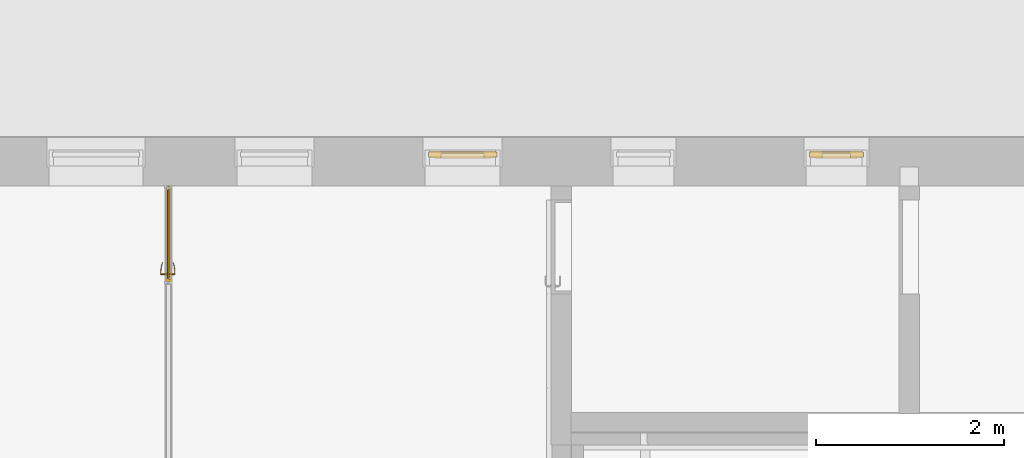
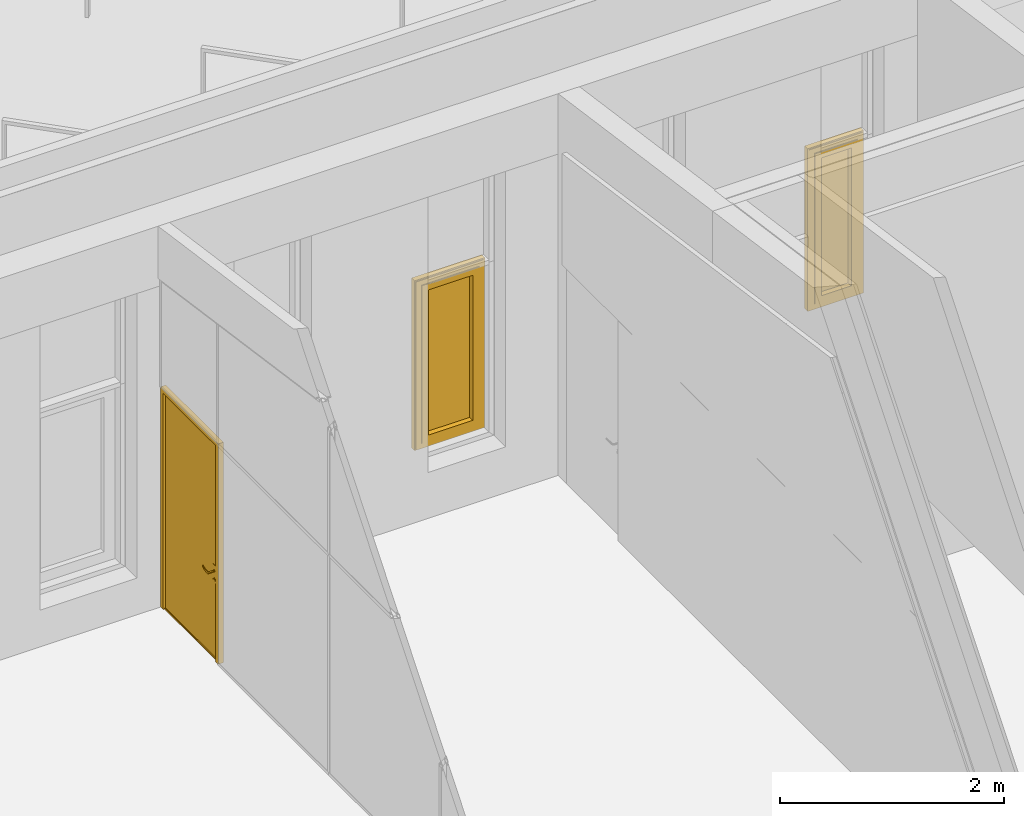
# One storey, part 165 of 246: 2 windows, 1 door, 3 elements without a shape of their own.
"""IFC2X3 building model written with IfcOpenShell, lengths in millimetres."""

from ifc_helpers import new_model, entity, si_unit, converted_unit, derived_unit, money_unit, direction, frame, origin_with_axes, place, context, subcontext, project, spatial, open_shell, faceted_brep, surface_model, material, material_list, type_object, element, aggregate, save


model = new_model("IFC2X3")

# Units and contexts
model_context = context("Model", 3, precision=0.01, world=origin_with_axes(), true_north=direction((0.0, 1.0)))
body_context = subcontext(model_context, "Body", "Model", "MODEL_VIEW")
ifc_project = project(units=[si_unit("LENGTHUNIT", "METRE", prefix="MILLI"), si_unit("AREAUNIT", "SQUARE_METRE"), si_unit("VOLUMEUNIT", "CUBIC_METRE"), converted_unit("PLANEANGLEUNIT", "DEGREE", entity("IfcPlaneAngleMeasure", 0.0174532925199), si_unit("PLANEANGLEUNIT", "RADIAN"), dimensions=[0, 0, 0, 0, 0, 0, 0]), si_unit("SOLIDANGLEUNIT", "STERADIAN"), money_unit("EUR"), converted_unit("TIMEUNIT", "Year", entity("IfcTimeMeasure", 31556926.0), si_unit("TIMEUNIT", "SECOND"), dimensions=[0, 0, 1, 0, 0, 0, 0]), si_unit("MASSUNIT", "GRAM", prefix="KILO"), si_unit("THERMODYNAMICTEMPERATUREUNIT", "DEGREE_CELSIUS"), si_unit("LUMINOUSINTENSITYUNIT", "LUMEN"), si_unit("ENERGYUNIT", "JOULE", prefix="MEGA"), derived_unit("THERMALCONDUCTANCEUNIT", [(si_unit("POWERUNIT", "WATT"), 1), (si_unit("LENGTHUNIT", "METRE"), -1), (si_unit("THERMODYNAMICTEMPERATUREUNIT", "KELVIN"), -1)]), derived_unit("SPECIFICHEATCAPACITYUNIT", [(si_unit("ENERGYUNIT", "JOULE"), 1), (si_unit("MASSUNIT", "GRAM", prefix="KILO"), -1), (si_unit("THERMODYNAMICTEMPERATUREUNIT", "KELVIN"), -1)]), derived_unit("MASSDENSITYUNIT", [(si_unit("MASSUNIT", "GRAM", prefix="KILO"), 1), (si_unit("VOLUMEUNIT", "CUBIC_METRE"), -1)])], contexts=[model_context])

# Site, building, storey
site_placement = place(None, origin_with_axes())
site = spatial("IfcSite", under=ifc_project, at=site_placement, Name="L.Koidula tn 11b", CompositionType="ELEMENT")
building_placement = place(site_placement, origin_with_axes())
building = spatial("IfcBuilding", under=site, at=building_placement, Name="Rakvere Riigigümnaasium", CompositionType="ELEMENT")
storey_placement = place(building_placement, origin_with_axes())
storey = spatial("IfcBuildingStorey", under=building, at=storey_placement, Name="1.korrus 0,00", CompositionType="ELEMENT", Elevation=0.0)

# Curtain wall, door
curtain_wall_type = type_object("IfcCurtainWallType", Name="Curtain Wall Type", PredefinedType="NOTDEFINED")
curtain_wall_1_placement = place(storey_placement, frame((32835.0202258, 67589.2016838, 0.0), z_axis=(0.0, 0.0, 1.0), x_axis=(1.0, 0.0, 0.0)))
curtain_wall_1 = element("IfcCurtainWall", 1, at=curtain_wall_1_placement, inside=storey, type_object=curtain_wall_type, Name="SKLF-02")
ifc_material_1 = material(Name="Alumiiniumprofiil")
ifc_material_2 = material(Name="VKR-05_Klaas")
ifc_material_3 = material(Name="ET-07_Teras - Roostevaba")
ifc_material_list_1 = material_list([ifc_material_1, ifc_material_2, ifc_material_3])
door_style = type_object("IfcDoorStyle", Name="Siseklaasfassaad - Klaasuks-Doubleline 1030 x 2385 x -5", ConstructionType="NOTDEFINED", OperationType="NOTDEFINED", ParameterTakesPrecedence=False, Sizeable=False)
door_placement = place(curtain_wall_1_placement, frame((0.0, 3496.25, 1200.0), z_axis=(0.0, 0.0, 1.0), x_axis=(0.0, 1.0, 0.0)))
door = element("IfcDoor", 2, at=door_placement, type_object=door_style, material=ifc_material_list_1, Name="Panel-Siseklaasf-003", ObjectType="DOOR", context=body_context, shape_type="SurfaceModel", body=[
    faceted_brep([(-515.0, 7.5, -1200.0), (-515.0, 7.5, 1200.0), (-515.0, 21.5, 1200.0), (-515.0, 21.5, -1200.0), (-469.0, 7.5, -1200.0), (-469.0, 7.5, 1154.0), (-469.0, 21.5, 1154.0), (-469.0, 21.5, -1200.0)], [[[0, 1, 2, 3]], [[0, 4, 5, 1]], [[1, 5, 6, 2]], [[3, 2, 6, 7]], [[4, 0, 3, 7]], [[5, 4, 7, 6]]]),
    faceted_brep([(515.0, 7.5, 1200.0), (469.0, 7.5, 1154.0), (469.0, 21.5, 1154.0), (515.0, 21.5, 1200.0), (-515.0, 7.5, 1200.0), (-469.0, 7.5, 1154.0), (-469.0, 21.5, 1154.0), (-515.0, 21.5, 1200.0)], [[[0, 1, 2, 3]], [[0, 4, 5, 1]], [[1, 5, 6, 2]], [[3, 2, 6, 7]], [[4, 0, 3, 7]], [[5, 4, 7, 6]]]),
    faceted_brep([(515.0, 7.5, -1200.0), (469.0, 7.5, -1200.0), (469.0, 21.5, -1200.0), (515.0, 21.5, -1200.0), (515.0, 7.5, 1200.0), (469.0, 7.5, 1154.0), (469.0, 21.5, 1154.0), (515.0, 21.5, 1200.0)], [[[0, 1, 2, 3]], [[0, 4, 5, 1]], [[1, 5, 6, 2]], [[3, 2, 6, 7]], [[4, 0, 3, 7]], [[5, 4, 7, 6]]]),
    faceted_brep([(-515.0, -32.5, -1200.0), (-515.0, -32.5, 1200.0), (-515.0, 7.5, 1200.0), (-515.0, 7.5, -1200.0), (-477.0, -32.5, -1200.0), (-477.0, -32.5, 1162.0), (-477.0, 7.5, 1162.0), (-477.0, 7.5, -1200.0)], [[[0, 1, 2, 3]], [[0, 4, 5, 1]], [[1, 5, 6, 2]], [[3, 2, 6, 7]], [[4, 0, 3, 7]], [[5, 4, 7, 6]]]),
    faceted_brep([(515.0, -32.5, 1200.0), (477.0, -32.5, 1162.0), (477.0, 7.5, 1162.0), (515.0, 7.5, 1200.0), (-515.0, -32.5, 1200.0), (-477.0, -32.5, 1162.0), (-477.0, 7.5, 1162.0), (-515.0, 7.5, 1200.0)], [[[0, 1, 2, 3]], [[0, 4, 5, 1]], [[1, 5, 6, 2]], [[3, 2, 6, 7]], [[4, 0, 3, 7]], [[5, 4, 7, 6]]]),
    faceted_brep([(515.0, -32.5, -1200.0), (477.0, -32.5, -1200.0), (477.0, 7.5, -1200.0), (515.0, 7.5, -1200.0), (515.0, -32.5, 1200.0), (477.0, -32.5, 1162.0), (477.0, 7.5, 1162.0), (515.0, 7.5, 1200.0)], [[[0, 1, 2, 3]], [[0, 4, 5, 1]], [[1, 5, 6, 2]], [[3, 2, 6, 7]], [[4, 0, 3, 7]], [[5, 4, 7, 6]]]),
    faceted_brep([(-515.0, -2.5, 1200.0), (515.0, -2.5, 1200.0), (515.0, 2.5, 1200.0), (-515.0, 2.5, 1200.0), (-515.0, -2.5, 1185.0), (515.0, -2.5, 1185.0), (515.0, 2.5, 1185.0), (-515.0, 2.5, 1185.0)], [[[0, 1, 2, 3]], [[0, 4, 5, 1]], [[1, 5, 6, 2]], [[3, 2, 6, 7]], [[4, 0, 3, 7]], [[5, 4, 7, 6]]]),
    faceted_brep([(465.0, 7.5, -1188.0), (465.0, -4.5, -1188.0), (465.0, -4.5, 1150.0), (465.0, 7.5, 1150.0), (477.0, 7.5, -1200.0), (477.0, -4.5, -1200.0), (477.0, -4.5, 1162.0), (477.0, 7.5, 1162.0)], [[[0, 1, 2, 3]], [[4, 5, 1, 0]], [[1, 5, 6, 2]], [[3, 2, 6, 7]], [[0, 3, 7, 4]], [[7, 6, 5, 4]]]),
    faceted_brep([(-477.0, 7.5, -1200.0), (-477.0, -4.5, -1200.0), (-477.0, -4.5, 1162.0), (-477.0, 7.5, 1162.0), (-465.0, 7.5, -1188.0), (-465.0, -4.5, -1188.0), (-465.0, -4.5, 1150.0), (-465.0, 7.5, 1150.0)], [[[0, 1, 2, 3]], [[4, 5, 1, 0]], [[1, 5, 6, 2]], [[3, 2, 6, 7]], [[0, 3, 7, 4]], [[7, 6, 5, 4]]]),
    faceted_brep([(-477.0, 7.5, -1200.0), (-477.0, -4.5, -1200.0), (-465.0, -4.5, -1188.0), (-465.0, 7.5, -1188.0), (477.0, 7.5, -1200.0), (477.0, -4.5, -1200.0), (465.0, -4.5, -1188.0), (465.0, 7.5, -1188.0)], [[[0, 1, 2, 3]], [[4, 5, 1, 0]], [[1, 5, 6, 2]], [[3, 2, 6, 7]], [[0, 3, 7, 4]], [[7, 6, 5, 4]]]),
    faceted_brep([(477.0, 7.5, 1162.0), (477.0, -4.5, 1162.0), (465.0, -4.5, 1150.0), (465.0, 7.5, 1150.0), (-477.0, 7.5, 1162.0), (-477.0, -4.5, 1162.0), (-465.0, -4.5, 1150.0), (-465.0, 7.5, 1150.0)], [[[0, 1, 2, 3]], [[4, 5, 1, 0]], [[1, 5, 6, 2]], [[3, 2, 6, 7]], [[0, 3, 7, 4]], [[7, 6, 5, 4]]]),
    faceted_brep([(465.0, -2.5, -1188.0), (465.0, -18.5, -1188.0), (-465.0, -18.5, -1188.0), (-465.0, -2.5, -1188.0), (465.0, -2.5, 1150.0), (465.0, -18.5, 1150.0), (-465.0, -18.5, 1150.0), (-465.0, -2.5, 1150.0)], [[[0, 1, 2, 3]], [[4, 5, 1, 0]], [[1, 5, 6, 2]], [[3, 2, 6, 7]], [[0, 3, 7, 4]], [[7, 6, 5, 4]]]),
    faceted_brep([(-455.5, -4.5, -178.0), (-455.5, -7.5, -178.0), (-398.5, -7.5, -178.0), (-398.5, -4.5, -178.0), (-455.5, -4.5, -368.0), (-455.5, -7.5, -368.0), (-398.5, -7.5, -368.0), (-398.5, -4.5, -368.0)], [[[0, 1, 2, 3]], [[4, 5, 1, 0]], [[1, 5, 6, 2]], [[3, 2, 6, 7]], [[0, 3, 7, 4]], [[7, 6, 5, 4]]]),
    surface_model("IfcShellBasedSurfaceModel", [(-427.0, -68.5, -248.0), (-427.0, -75.5, -248.0), (-435.660254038, -75.5, -243.0), (-435.660254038, -68.5, -243.0), (-402.0, -68.5, -248.0), (-402.0, -75.5, -248.0), (-402.0, -75.5, -228.0), (-427.0, -75.5, -228.0), (-435.660254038, -75.5, -233.0), (-435.660254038, -68.5, -233.0), (-427.0, -68.5, -228.0), (-402.0, -68.5, -228.0)], [open_shell([[[0, 1, 2, 3]], [[4, 5, 1, 0]], [[1, 5, 6, 7, 8, 2]], [[3, 2, 8, 9]], [[0, 3, 9, 10, 11, 4]], [[10, 7, 6, 11]], [[9, 8, 7, 10]]])]),
    surface_model("IfcShellBasedSurfaceModel", [(-402.0, -68.5, -228.0), (-388.596090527, -75.5, -228.392699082), (-388.901717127, -68.5, -228.392699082), (-402.0, -75.5, -228.0), (-361.890283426, -73.1635446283, -229.178097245), (-388.901717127, -68.5, -247.607300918), (-402.0, -68.5, -248.0), (-402.0, -75.5, -248.0), (-388.596090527, -75.5, -247.607300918), (-361.890283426, -73.1635446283, -246.821902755), (-362.804837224, -66.216818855, -229.178097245), (-362.804837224, -66.216818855, -246.821902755), (-335.489735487, -68.5084157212, -246.036504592), (-335.489735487, -68.5084157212, -229.963495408), (-337.006256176, -61.6678329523, -229.963495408), (-337.006256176, -61.6678329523, -246.036504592), (-309.59537082, -61.5700416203, -245.251106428), (-309.59537082, -61.5700416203, -230.748893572), (-311.702316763, -54.8876628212, -230.748893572), (-311.702316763, -54.8876628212, -245.251106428), (-301.538795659, -58.6376880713, -245.0), (-301.538795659, -58.6376880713, -231.0), (-303.829442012, -52.0221707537, -231.0), (-303.829442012, -52.0221707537, -245.0)], [open_shell([[[0, 1, 2]], [[0, 3, 1]], [[2, 1, 4]], [[0, 2, 5, 6]], [[3, 7, 8, 1]], [[1, 8, 9, 4]], [[2, 4, 10]], [[2, 10, 11, 5]], [[5, 7, 6]], [[5, 8, 7]], [[11, 9, 8]], [[4, 9, 12, 13]], [[10, 4, 13]], [[10, 14, 15, 11]], [[11, 8, 5]], [[15, 9, 11]], [[15, 12, 9]], [[13, 12, 16, 17]], [[10, 13, 14]], [[14, 18, 19, 15]], [[19, 12, 15]], [[19, 16, 12]], [[17, 16, 20, 21]], [[14, 13, 17]], [[14, 17, 18]], [[18, 22, 23, 19]], [[23, 16, 19]], [[23, 20, 16]], [[22, 21, 20, 23]], [[18, 17, 21]], [[18, 21, 22]]])]),
    faceted_brep([(-423.291796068, -17.5, -249.412678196), (-422.982779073, -7.5, -250.363734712), (-414.0, -7.5, -238.0), (-415.0, -17.5, -238.0), (-436.708203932, -17.5, -245.053423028), (-437.517220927, -7.5, -245.64120828), (-437.517220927, -7.5, -230.35879172), (-422.982779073, -7.5, -225.636265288), (-423.291796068, -17.5, -226.587321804), (-436.708203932, -17.5, -230.946576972)], [[[0, 1, 2, 3]], [[4, 5, 1, 0]], [[2, 1, 5, 6, 7]], [[3, 2, 7, 8]], [[3, 8, 9, 4, 0]], [[9, 6, 5, 4]], [[8, 7, 6, 9]]]),
    faceted_brep([(-420.819660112, -11.5, -352.021130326), (-420.201626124, -7.5, -353.923243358), (-405.0, -7.5, -333.0), (-407.0, -11.5, -333.0), (-443.180339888, -11.5, -344.755705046), (-444.798373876, -7.5, -345.93127555), (-444.798373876, -7.5, -320.06872445), (-420.201626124, -7.5, -312.076756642), (-420.819660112, -11.5, -313.978869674), (-443.180339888, -11.5, -321.244294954)], [[[0, 1, 2, 3]], [[4, 5, 1, 0]], [[2, 1, 5, 6, 7]], [[3, 2, 7, 8]], [[3, 8, 9, 4, 0]], [[9, 6, 5, 4]], [[8, 7, 6, 9]]]),
    faceted_brep([(-424.836881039, -13.5, -330.657395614), (-424.527864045, -11.5, -331.60845213), (-419.0, -11.5, -324.0), (-420.0, -13.5, -324.0), (-432.663118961, -13.5, -328.114496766), (-433.472135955, -11.5, -328.702282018), (-433.472135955, -11.5, -319.297717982), (-424.527864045, -11.5, -316.39154787), (-424.836881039, -13.5, -317.342604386), (-432.663118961, -13.5, -319.885503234)], [[[0, 1, 2, 3]], [[4, 5, 1, 0]], [[2, 1, 5, 6, 7]], [[3, 2, 7, 8]], [[3, 8, 9, 4, 0]], [[9, 6, 5, 4]], [[8, 7, 6, 9]]]),
    faceted_brep([(-427.0, -17.5, -228.0), (-427.0, -68.5, -228.0), (-417.489434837, -68.5, -234.909830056), (-417.489434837, -17.5, -234.909830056), (-436.510565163, -17.5, -234.909830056), (-436.510565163, -68.5, -234.909830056), (-432.877852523, -68.5, -246.090169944), (-421.122147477, -68.5, -246.090169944), (-421.122147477, -17.5, -246.090169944), (-432.877852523, -17.5, -246.090169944)], [[[0, 1, 2, 3]], [[4, 5, 1, 0]], [[1, 5, 6, 7, 2]], [[3, 2, 7, 8]], [[0, 3, 8, 9, 4]], [[9, 6, 5, 4]], [[8, 7, 6, 9]]]),
    faceted_brep([(-455.5, 7.5, -178.0), (-398.5, 7.5, -178.0), (-398.5, 10.5, -178.0), (-455.5, 10.5, -178.0), (-455.5, 7.5, -368.0), (-398.5, 7.5, -368.0), (-398.5, 10.5, -368.0), (-455.5, 10.5, -368.0)], [[[0, 1, 2, 3]], [[0, 4, 5, 1]], [[1, 5, 6, 2]], [[3, 2, 6, 7]], [[4, 0, 3, 7]], [[5, 4, 7, 6]]]),
    surface_model("IfcShellBasedSurfaceModel", [(-427.0, 71.5, -248.0), (-435.660254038, 71.5, -243.0), (-435.660254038, 78.5, -243.0), (-427.0, 78.5, -248.0), (-402.0, 71.5, -248.0), (-402.0, 71.5, -228.0), (-427.0, 71.5, -228.0), (-435.660254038, 71.5, -233.0), (-435.660254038, 78.5, -233.0), (-427.0, 78.5, -228.0), (-402.0, 78.5, -228.0), (-402.0, 78.5, -248.0)], [open_shell([[[0, 1, 2, 3]], [[0, 4, 5, 6, 7, 1]], [[1, 7, 8, 2]], [[3, 2, 8, 9, 10, 11]], [[4, 0, 3, 11]], [[6, 5, 10, 9]], [[7, 6, 9, 8]]])]),
    surface_model("IfcShellBasedSurfaceModel", [(-402.0, 71.5, -228.0), (-388.901717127, 71.5, -228.392699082), (-388.596090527, 78.5, -228.392699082), (-402.0, 71.5, -248.0), (-388.901717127, 71.5, -247.607300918), (-361.890283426, 76.1635446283, -229.178097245), (-402.0, 78.5, -228.0), (-402.0, 78.5, -248.0), (-362.804837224, 69.216818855, -246.821902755), (-362.804837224, 69.216818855, -229.178097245), (-361.890283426, 76.1635446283, -246.821902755), (-388.596090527, 78.5, -247.607300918), (-337.006256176, 64.6678329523, -246.036504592), (-337.006256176, 64.6678329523, -229.963495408), (-335.489735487, 71.5084157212, -229.963495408), (-335.489735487, 71.5084157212, -246.036504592), (-311.702316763, 57.8876628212, -245.251106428), (-311.702316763, 57.8876628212, -230.748893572), (-309.59537082, 64.5700416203, -230.748893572), (-309.59537082, 64.5700416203, -245.251106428), (-303.829442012, 55.0221707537, -245.0), (-303.829442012, 55.0221707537, -231.0), (-301.538795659, 61.6376880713, -231.0), (-301.538795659, 61.6376880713, -245.0)], [open_shell([[[0, 1, 2]], [[0, 3, 4, 1]], [[1, 5, 2]], [[0, 2, 6]], [[4, 3, 7]], [[1, 4, 8, 9]], [[1, 9, 5]], [[2, 5, 10, 11]], [[6, 2, 11, 7]], [[4, 7, 11]], [[8, 4, 11]], [[9, 8, 12, 13]], [[9, 14, 5]], [[5, 14, 15, 10]], [[8, 11, 10]], [[12, 8, 10]], [[13, 12, 16, 17]], [[9, 13, 14]], [[14, 18, 19, 15]], [[12, 10, 15]], [[16, 12, 15]], [[17, 16, 20, 21]], [[13, 17, 18]], [[13, 18, 14]], [[18, 22, 23, 19]], [[16, 15, 19]], [[20, 16, 19]], [[21, 20, 23, 22]], [[17, 21, 22]], [[17, 22, 18]], [[20, 19, 23]]])]),
    faceted_brep([(-423.291796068, 20.5, -249.412678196), (-415.0, 20.5, -238.0), (-414.0, 10.5, -238.0), (-422.982779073, 10.5, -250.363734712), (-436.708203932, 20.5, -245.053423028), (-436.708203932, 20.5, -230.946576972), (-423.291796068, 20.5, -226.587321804), (-422.982779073, 10.5, -225.636265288), (-437.517220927, 10.5, -230.35879172), (-437.517220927, 10.5, -245.64120828)], [[[0, 1, 2, 3]], [[1, 0, 4, 5, 6]], [[1, 6, 7, 2]], [[2, 7, 8, 9, 3]], [[4, 0, 3, 9]], [[5, 4, 9, 8]], [[6, 5, 8, 7]]]),
    faceted_brep([(-420.819660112, 14.5, -352.021130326), (-407.0, 14.5, -333.0), (-405.0, 10.5, -333.0), (-420.201626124, 10.5, -353.923243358), (-443.180339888, 14.5, -344.755705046), (-443.180339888, 14.5, -321.244294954), (-420.819660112, 14.5, -313.978869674), (-420.201626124, 10.5, -312.076756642), (-444.798373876, 10.5, -320.06872445), (-444.798373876, 10.5, -345.93127555)], [[[0, 1, 2, 3]], [[1, 0, 4, 5, 6]], [[1, 6, 7, 2]], [[2, 7, 8, 9, 3]], [[4, 0, 3, 9]], [[5, 4, 9, 8]], [[6, 5, 8, 7]]]),
    faceted_brep([(-424.836881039, 16.5, -330.657395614), (-420.0, 16.5, -324.0), (-419.0, 14.5, -324.0), (-424.527864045, 14.5, -331.60845213), (-432.663118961, 16.5, -328.114496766), (-432.663118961, 16.5, -319.885503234), (-424.836881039, 16.5, -317.342604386), (-424.527864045, 14.5, -316.39154787), (-433.472135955, 14.5, -319.297717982), (-433.472135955, 14.5, -328.702282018)], [[[0, 1, 2, 3]], [[1, 0, 4, 5, 6]], [[1, 6, 7, 2]], [[2, 7, 8, 9, 3]], [[4, 0, 3, 9]], [[5, 4, 9, 8]], [[6, 5, 8, 7]]]),
    faceted_brep([(-427.0, 20.5, -228.0), (-417.489434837, 20.5, -234.909830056), (-417.489434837, 71.5, -234.909830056), (-427.0, 71.5, -228.0), (-436.510565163, 20.5, -234.909830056), (-432.877852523, 20.5, -246.090169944), (-421.122147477, 20.5, -246.090169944), (-421.122147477, 71.5, -246.090169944), (-432.877852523, 71.5, -246.090169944), (-436.510565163, 71.5, -234.909830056)], [[[0, 1, 2, 3]], [[0, 4, 5, 6, 1]], [[1, 6, 7, 2]], [[3, 2, 7, 8, 9]], [[4, 0, 3, 9]], [[5, 4, 9, 8]], [[6, 5, 8, 7]]]),
])
aggregate(curtain_wall_1, [door])

# Curtain wall, window
curtain_wall_2_placement = place(storey_placement, frame((39944.5199736, 71934.4519938, 599.999957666), z_axis=(0.0, 0.0, 1.0), x_axis=(1.0, 0.0, 0.0)))
curtain_wall_2 = element("IfcCurtainWall", 3, at=curtain_wall_2_placement, inside=storey, type_object=curtain_wall_type, Name="KLF-08-10")
ifc_material_4 = material(Name="Alumiiniumprofiil (RAL 7021)")
ifc_material_5 = material(Name="Klaaspakett 3x")
ifc_material_list_2 = material_list([ifc_material_4, ifc_material_5])
window_style_1 = type_object("IfcWindowStyle", Name="576 x 1771 x 54", ConstructionType="NOTDEFINED", OperationType="NOTDEFINED", ParameterTakesPrecedence=False, Sizeable=False)
window_1_placement = place(curtain_wall_2_placement, frame((-2.87317902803e-06, 0.0, 910.000085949), z_axis=(0.0, 0.0, 1.0), x_axis=(-1.0, 0.0, 0.0)))
window_1 = element("IfcWindow", 4, at=window_1_placement, type_object=window_style_1, material=ifc_material_list_2, Name="KLF-08-A-4", ObjectType="WINDOW", context=body_context, shape_type="SurfaceModel", body=[
    surface_model("IfcShellBasedSurfaceModel", [(274.999987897, -36.0, -860.000090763), (-274.999986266, -36.0, -860.000090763), (-220.999986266, -36.0, -806.000090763), (220.999987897, -36.0, -806.000090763)], [open_shell([[[0, 1, 2, 3]]])]),
    surface_model("IfcShellBasedSurfaceModel", [(-274.999986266, -36.0, -860.000090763), (-274.999986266, -36.0, 885.000088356), (-220.999986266, -36.0, 831.000088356), (-220.999986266, -36.0, -806.000090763)], [open_shell([[[0, 1, 2, 3]]])]),
    surface_model("IfcShellBasedSurfaceModel", [(274.999987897, -36.0, 885.000088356), (220.999987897, -36.0, 831.000088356), (-220.999986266, -36.0, 831.000088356), (-274.999986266, -36.0, 885.000088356)], [open_shell([[[0, 1, 2, 3]]])]),
    surface_model("IfcShellBasedSurfaceModel", [(274.999987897, -36.0, -860.000090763), (220.999987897, -36.0, -806.000090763), (220.999987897, -36.0, 831.000088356), (274.999987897, -36.0, 885.000088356)], [open_shell([[[0, 1, 2, 3]]])]),
    faceted_brep([(274.999987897, 34.0, -860.000090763), (274.999987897, -36.0, -860.000090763), (-274.999986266, -36.0, -860.000090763), (-274.999986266, 34.0, -860.000090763), (220.999987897, 34.0, -806.000090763), (220.999987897, -36.0, -806.000090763), (-220.999986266, -36.0, -806.000090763), (-220.999986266, 34.0, -806.000090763)], [[[0, 1, 2, 3]], [[4, 5, 1, 0]], [[1, 5, 6, 2]], [[3, 2, 6, 7]], [[0, 3, 7, 4]], [[7, 6, 5, 4]]]),
    faceted_brep([(-274.999986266, 34.0, -860.000090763), (-274.999986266, -36.0, -860.000090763), (-274.999986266, -36.0, 885.000088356), (-274.999986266, 34.0, 885.000088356), (-220.999986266, 34.0, -806.000090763), (-220.999986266, -36.0, -806.000090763), (-220.999986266, -36.0, 831.000088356), (-220.999986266, 34.0, 831.000088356)], [[[0, 1, 2, 3]], [[4, 5, 1, 0]], [[1, 5, 6, 2]], [[3, 2, 6, 7]], [[0, 3, 7, 4]], [[7, 6, 5, 4]]]),
    faceted_brep([(274.999987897, 34.0, 885.000088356), (274.999987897, -36.0, 885.000088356), (220.999987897, -36.0, 831.000088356), (220.999987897, 34.0, 831.000088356), (-274.999986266, 34.0, 885.000088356), (-274.999986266, -36.0, 885.000088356), (-220.999986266, -36.0, 831.000088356), (-220.999986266, 34.0, 831.000088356)], [[[0, 1, 2, 3]], [[4, 5, 1, 0]], [[1, 5, 6, 2]], [[3, 2, 6, 7]], [[0, 3, 7, 4]], [[7, 6, 5, 4]]]),
    faceted_brep([(274.999987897, 34.0, -860.000090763), (274.999987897, -36.0, -860.000090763), (220.999987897, -36.0, -806.000090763), (220.999987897, 34.0, -806.000090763), (274.999987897, 34.0, 885.000088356), (274.999987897, -36.0, 885.000088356), (220.999987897, -36.0, 831.000088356), (220.999987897, 34.0, 831.000088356)], [[[0, 1, 2, 3]], [[4, 5, 1, 0]], [[1, 5, 6, 2]], [[3, 2, 6, 7]], [[0, 3, 7, 4]], [[7, 6, 5, 4]]]),
    faceted_brep([(287.999973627, 27.0, -873.000076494), (287.999973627, -27.0, -873.000076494), (-287.999999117, -27.0, -873.000076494), (-287.999999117, 27.0, -873.000076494), (274.999987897, 27.0, -860.000090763), (274.999987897, -27.0, -860.000090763), (-274.999986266, -27.0, -860.000090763), (-274.999986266, 27.0, -860.000090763)], [[[0, 1, 2, 3]], [[4, 5, 1, 0]], [[1, 5, 6, 2]], [[3, 2, 6, 7]], [[0, 3, 7, 4]], [[7, 6, 5, 4]]]),
    faceted_brep([(-287.999999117, 27.0, -873.000076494), (-287.999999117, -27.0, -873.000076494), (-287.999999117, -27.0, 898.000074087), (-287.999999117, 27.0, 898.000074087), (-274.999986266, 27.0, -860.000090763), (-274.999986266, -27.0, -860.000090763), (-274.999986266, -27.0, 885.000088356), (-274.999986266, 27.0, 885.000088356)], [[[0, 1, 2, 3]], [[4, 5, 1, 0]], [[1, 5, 6, 2]], [[3, 2, 6, 7]], [[0, 3, 7, 4]], [[7, 6, 5, 4]]]),
    faceted_brep([(-287.999999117, 27.0, 898.000074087), (-287.999999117, -27.0, 898.000074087), (287.999973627, -27.0, 898.000074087), (287.999973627, 27.0, 898.000074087), (-274.999986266, 27.0, 885.000088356), (-274.999986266, -27.0, 885.000088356), (274.999987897, -27.0, 885.000088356), (274.999987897, 27.0, 885.000088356)], [[[0, 1, 2, 3]], [[4, 5, 1, 0]], [[1, 5, 6, 2]], [[3, 2, 6, 7]], [[0, 3, 7, 4]], [[7, 6, 5, 4]]]),
    faceted_brep([(287.999973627, 27.0, 898.000074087), (287.999973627, -27.0, 898.000074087), (287.999973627, -27.0, -873.000076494), (287.999973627, 27.0, -873.000076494), (274.999987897, 27.0, 885.000088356), (274.999987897, -27.0, 885.000088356), (274.999987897, -27.0, -860.000090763), (274.999987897, 27.0, -860.000090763)], [[[0, 1, 2, 3]], [[4, 5, 1, 0]], [[1, 5, 6, 2]], [[3, 2, 6, 7]], [[0, 3, 7, 4]], [[7, 6, 5, 4]]]),
    faceted_brep([(152.999987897, -36.0, -738.000090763), (152.999987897, -36.0, 763.000088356), (152.999987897, 44.0, 763.000088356), (152.999987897, 44.0, -738.000090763), (220.999987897, -36.0, -806.000090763), (220.999987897, -36.0, 831.000088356), (220.999987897, 44.0, 831.000088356), (220.999987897, 44.0, -806.000090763)], [[[0, 1, 2, 3]], [[0, 4, 5, 1]], [[1, 5, 6, 2]], [[3, 2, 6, 7]], [[4, 0, 3, 7]], [[5, 4, 7, 6]]]),
    faceted_brep([(-220.999986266, -36.0, -806.000090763), (-220.999986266, -36.0, 831.000088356), (-220.999986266, 44.0, 831.000088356), (-220.999986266, 44.0, -806.000090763), (-152.999986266, -36.0, -738.000090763), (-152.999986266, -36.0, 763.000088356), (-152.999986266, 44.0, 763.000088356), (-152.999986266, 44.0, -738.000090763)], [[[0, 1, 2, 3]], [[0, 4, 5, 1]], [[1, 5, 6, 2]], [[3, 2, 6, 7]], [[4, 0, 3, 7]], [[5, 4, 7, 6]]]),
    faceted_brep([(-220.999986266, -36.0, -806.000090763), (-152.999986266, -36.0, -738.000090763), (-152.999986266, 44.0, -738.000090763), (-220.999986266, 44.0, -806.000090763), (220.999987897, -36.0, -806.000090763), (152.999987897, -36.0, -738.000090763), (152.999987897, 44.0, -738.000090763), (220.999987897, 44.0, -806.000090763)], [[[0, 1, 2, 3]], [[0, 4, 5, 1]], [[1, 5, 6, 2]], [[3, 2, 6, 7]], [[4, 0, 3, 7]], [[5, 4, 7, 6]]]),
    faceted_brep([(220.999987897, -36.0, 831.000088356), (152.999987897, -36.0, 763.000088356), (152.999987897, 44.0, 763.000088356), (220.999987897, 44.0, 831.000088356), (-220.999986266, -36.0, 831.000088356), (-152.999986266, -36.0, 763.000088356), (-152.999986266, 44.0, 763.000088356), (-220.999986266, 44.0, 831.000088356)], [[[0, 1, 2, 3]], [[0, 4, 5, 1]], [[1, 5, 6, 2]], [[3, 2, 6, 7]], [[4, 0, 3, 7]], [[5, 4, 7, 6]]]),
    faceted_brep([(152.999987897, -27.0, -738.000090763), (-152.999986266, -27.0, -738.000090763), (-152.999986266, -11.0, -738.000090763), (152.999987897, -11.0, -738.000090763), (152.999987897, -27.0, 763.000088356), (-152.999986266, -27.0, 763.000088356), (-152.999986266, -11.0, 763.000088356), (152.999987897, -11.0, 763.000088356)], [[[0, 1, 2, 3]], [[0, 4, 5, 1]], [[1, 5, 6, 2]], [[3, 2, 6, 7]], [[4, 0, 3, 7]], [[5, 4, 7, 6]]]),
])
aggregate(curtain_wall_2, [window_1])

curtain_wall_3_placement = place(storey_placement, frame((35969.5353612, 71934.4519938, 500.0), z_axis=(0.0, 0.0, 1.0), x_axis=(1.0, 0.0, 0.0)))
curtain_wall_3 = element("IfcCurtainWall", 5, at=curtain_wall_3_placement, inside=storey, type_object=curtain_wall_type, Name="KLF-08-08")
window_style_2 = type_object("IfcWindowStyle", Name="726 x 1851 x 54", ConstructionType="NOTDEFINED", OperationType="NOTDEFINED", ParameterTakesPrecedence=False, Sizeable=False)
window_2_placement = place(curtain_wall_3_placement, frame((-1.85465154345e-06, 0.0, 950.000056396), z_axis=(0.0, 0.0, 1.0), x_axis=(-1.0, 0.0, 0.0)))
window_2 = element("IfcWindow", 6, at=window_2_placement, type_object=window_style_2, material=ifc_material_list_2, Name="KLF-08-A-3", ObjectType="WINDOW", context=body_context, shape_type="SurfaceModel", body=[
    surface_model("IfcShellBasedSurfaceModel", [(350.000060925, -36.0, -900.000054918), (-350.000073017, -36.0, -900.000054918), (-296.000073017, -36.0, -846.000054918), (296.000060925, -36.0, -846.000054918)], [open_shell([[[0, 1, 2, 3]]])]),
    surface_model("IfcShellBasedSurfaceModel", [(-350.000073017, -36.0, -900.000054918), (-350.000073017, -36.0, 925.000069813), (-296.000073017, -36.0, 871.000069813), (-296.000073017, -36.0, -846.000054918)], [open_shell([[[0, 1, 2, 3]]])]),
    surface_model("IfcShellBasedSurfaceModel", [(350.000060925, -36.0, 925.000069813), (296.000060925, -36.0, 871.000069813), (-296.000073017, -36.0, 871.000069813), (-350.000073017, -36.0, 925.000069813)], [open_shell([[[0, 1, 2, 3]]])]),
    surface_model("IfcShellBasedSurfaceModel", [(350.000060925, -36.0, -900.000054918), (296.000060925, -36.0, -846.000054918), (296.000060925, -36.0, 871.000069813), (350.000060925, -36.0, 925.000069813)], [open_shell([[[0, 1, 2, 3]]])]),
    faceted_brep([(350.000060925, 34.0, -900.000054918), (350.000060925, -36.0, -900.000054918), (-350.000073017, -36.0, -900.000054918), (-350.000073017, 34.0, -900.000054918), (296.000060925, 34.0, -846.000054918), (296.000060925, -36.0, -846.000054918), (-296.000073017, -36.0, -846.000054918), (-296.000073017, 34.0, -846.000054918)], [[[0, 1, 2, 3]], [[4, 5, 1, 0]], [[1, 5, 6, 2]], [[3, 2, 6, 7]], [[0, 3, 7, 4]], [[7, 6, 5, 4]]]),
    faceted_brep([(-350.000073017, 34.0, -900.000054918), (-350.000073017, -36.0, -900.000054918), (-350.000073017, -36.0, 925.000069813), (-350.000073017, 34.0, 925.000069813), (-296.000073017, 34.0, -846.000054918), (-296.000073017, -36.0, -846.000054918), (-296.000073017, -36.0, 871.000069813), (-296.000073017, 34.0, 871.000069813)], [[[0, 1, 2, 3]], [[4, 5, 1, 0]], [[1, 5, 6, 2]], [[3, 2, 6, 7]], [[0, 3, 7, 4]], [[7, 6, 5, 4]]]),
    faceted_brep([(350.000060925, 34.0, 925.000069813), (350.000060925, -36.0, 925.000069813), (296.000060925, -36.0, 871.000069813), (296.000060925, 34.0, 871.000069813), (-350.000073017, 34.0, 925.000069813), (-350.000073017, -36.0, 925.000069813), (-296.000073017, -36.0, 871.000069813), (-296.000073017, 34.0, 871.000069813)], [[[0, 1, 2, 3]], [[4, 5, 1, 0]], [[1, 5, 6, 2]], [[3, 2, 6, 7]], [[0, 3, 7, 4]], [[7, 6, 5, 4]]]),
    faceted_brep([(350.000060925, 34.0, -900.000054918), (350.000060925, -36.0, -900.000054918), (296.000060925, -36.0, -846.000054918), (296.000060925, 34.0, -846.000054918), (350.000060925, 34.0, 925.000069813), (350.000060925, -36.0, 925.000069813), (296.000060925, -36.0, 871.000069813), (296.000060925, 34.0, 871.000069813)], [[[0, 1, 2, 3]], [[4, 5, 1, 0]], [[1, 5, 6, 2]], [[3, 2, 6, 7]], [[0, 3, 7, 4]], [[7, 6, 5, 4]]]),
    faceted_brep([(363.000048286, 27.0, -913.000042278), (363.000048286, -27.0, -913.000042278), (-363.000060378, -27.0, -913.000042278), (-363.000060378, 27.0, -913.000042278), (350.000060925, 27.0, -900.000054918), (350.000060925, -27.0, -900.000054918), (-350.000073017, -27.0, -900.000054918), (-350.000073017, 27.0, -900.000054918)], [[[0, 1, 2, 3]], [[4, 5, 1, 0]], [[1, 5, 6, 2]], [[3, 2, 6, 7]], [[0, 3, 7, 4]], [[7, 6, 5, 4]]]),
    faceted_brep([(-363.000060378, 27.0, -913.000042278), (-363.000060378, -27.0, -913.000042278), (-363.000060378, -27.0, 938.000057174), (-363.000060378, 27.0, 938.000057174), (-350.000073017, 27.0, -900.000054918), (-350.000073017, -27.0, -900.000054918), (-350.000073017, -27.0, 925.000069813), (-350.000073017, 27.0, 925.000069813)], [[[0, 1, 2, 3]], [[4, 5, 1, 0]], [[1, 5, 6, 2]], [[3, 2, 6, 7]], [[0, 3, 7, 4]], [[7, 6, 5, 4]]]),
    faceted_brep([(-363.000060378, 27.0, 938.000057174), (-363.000060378, -27.0, 938.000057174), (363.000048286, -27.0, 938.000057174), (363.000048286, 27.0, 938.000057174), (-350.000073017, 27.0, 925.000069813), (-350.000073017, -27.0, 925.000069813), (350.000060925, -27.0, 925.000069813), (350.000060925, 27.0, 925.000069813)], [[[0, 1, 2, 3]], [[4, 5, 1, 0]], [[1, 5, 6, 2]], [[3, 2, 6, 7]], [[0, 3, 7, 4]], [[7, 6, 5, 4]]]),
    faceted_brep([(363.000048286, 27.0, 938.000057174), (363.000048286, -27.0, 938.000057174), (363.000048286, -27.0, -913.000042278), (363.000048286, 27.0, -913.000042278), (350.000060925, 27.0, 925.000069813), (350.000060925, -27.0, 925.000069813), (350.000060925, -27.0, -900.000054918), (350.000060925, 27.0, -900.000054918)], [[[0, 1, 2, 3]], [[4, 5, 1, 0]], [[1, 5, 6, 2]], [[3, 2, 6, 7]], [[0, 3, 7, 4]], [[7, 6, 5, 4]]]),
    faceted_brep([(228.000060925, -36.0, -778.000054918), (228.000060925, -36.0, 803.000069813), (228.000060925, 44.0, 803.000069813), (228.000060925, 44.0, -778.000054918), (296.000060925, -36.0, -846.000054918), (296.000060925, -36.0, 871.000069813), (296.000060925, 44.0, 871.000069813), (296.000060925, 44.0, -846.000054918)], [[[0, 1, 2, 3]], [[0, 4, 5, 1]], [[1, 5, 6, 2]], [[3, 2, 6, 7]], [[4, 0, 3, 7]], [[5, 4, 7, 6]]]),
    faceted_brep([(-296.000073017, -36.0, -846.000054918), (-296.000073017, -36.0, 871.000069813), (-296.000073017, 44.0, 871.000069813), (-296.000073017, 44.0, -846.000054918), (-228.000073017, -36.0, -778.000054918), (-228.000073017, -36.0, 803.000069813), (-228.000073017, 44.0, 803.000069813), (-228.000073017, 44.0, -778.000054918)], [[[0, 1, 2, 3]], [[0, 4, 5, 1]], [[1, 5, 6, 2]], [[3, 2, 6, 7]], [[4, 0, 3, 7]], [[5, 4, 7, 6]]]),
    faceted_brep([(-296.000073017, -36.0, -846.000054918), (-228.000073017, -36.0, -778.000054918), (-228.000073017, 44.0, -778.000054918), (-296.000073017, 44.0, -846.000054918), (296.000060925, -36.0, -846.000054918), (228.000060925, -36.0, -778.000054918), (228.000060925, 44.0, -778.000054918), (296.000060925, 44.0, -846.000054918)], [[[0, 1, 2, 3]], [[0, 4, 5, 1]], [[1, 5, 6, 2]], [[3, 2, 6, 7]], [[4, 0, 3, 7]], [[5, 4, 7, 6]]]),
    faceted_brep([(296.000060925, -36.0, 871.000069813), (228.000060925, -36.0, 803.000069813), (228.000060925, 44.0, 803.000069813), (296.000060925, 44.0, 871.000069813), (-296.000073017, -36.0, 871.000069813), (-228.000073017, -36.0, 803.000069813), (-228.000073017, 44.0, 803.000069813), (-296.000073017, 44.0, 871.000069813)], [[[0, 1, 2, 3]], [[0, 4, 5, 1]], [[1, 5, 6, 2]], [[3, 2, 6, 7]], [[4, 0, 3, 7]], [[5, 4, 7, 6]]]),
    faceted_brep([(228.000060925, -27.0, -778.000054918), (-228.000073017, -27.0, -778.000054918), (-228.000073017, -11.0, -778.000054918), (228.000060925, -11.0, -778.000054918), (228.000060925, -27.0, 803.000069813), (-228.000073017, -27.0, 803.000069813), (-228.000073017, -11.0, 803.000069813), (228.000060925, -11.0, 803.000069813)], [[[0, 1, 2, 3]], [[0, 4, 5, 1]], [[1, 5, 6, 2]], [[3, 2, 6, 7]], [[4, 0, 3, 7]], [[5, 4, 7, 6]]]),
])
aggregate(curtain_wall_3, [window_2])

save(model, "model.ifc")
